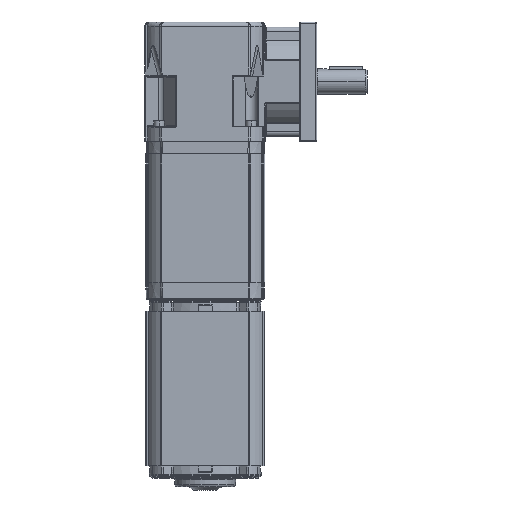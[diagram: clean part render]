
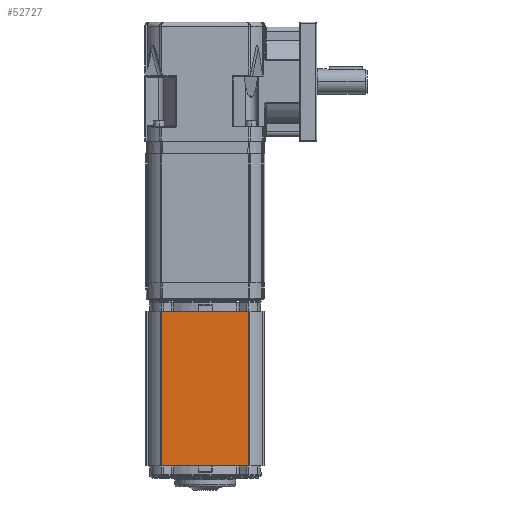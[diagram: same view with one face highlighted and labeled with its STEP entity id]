
A CAD part, front view. The second image highlights one B-rep face of the part: STEP entity #52727.
In plain terms, the highlighted planar face has unit normal (0, -1, 0).
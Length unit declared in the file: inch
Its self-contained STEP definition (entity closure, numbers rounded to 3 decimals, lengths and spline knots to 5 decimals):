
#5382 = CARTESIAN_POINT ( 'NONE',  ( 1.325, -1.7765, -4.689 ) ) ;
#5887 = DIRECTION ( 'NONE',  ( 0., 0., 1. ) ) ;
#5911 = VECTOR ( 'NONE', #40230, 39.37008 ) ;
#6220 = PLANE ( 'NONE',  #57101 ) ;
#7368 = VECTOR ( 'NONE', #5887, 39.37008 ) ;
#8058 = VECTOR ( 'NONE', #44685, 39.37008 ) ;
#11089 = VERTEX_POINT ( 'NONE', #15378 ) ;
#13605 = EDGE_CURVE ( 'NONE', #44794, #54369, #32725, .T. ) ;
#15033 = ORIENTED_EDGE ( 'NONE', *, *, #56308, .T. ) ;
#15378 = CARTESIAN_POINT ( 'NONE',  ( 1.305, -1.7765, -9.294 ) ) ;
#17565 = ORIENTED_EDGE ( 'NONE', *, *, #13605, .F. ) ;
#20914 = LINE ( 'NONE', #21094, #7368 ) ;
#21094 = CARTESIAN_POINT ( 'NONE',  ( 1.305, -1.7765, -11.025 ) ) ;
#21511 = VECTOR ( 'NONE', #57092, 39.37008 ) ;
#26838 = CARTESIAN_POINT ( 'NONE',  ( 1.325, -1.7765, -11.025 ) ) ;
#28345 = VERTEX_POINT ( 'NONE', #47374 ) ;
#28527 = CARTESIAN_POINT ( 'NONE',  ( 1.305, -1.7765, -4.689 ) ) ;
#28556 = CARTESIAN_POINT ( 'NONE',  ( -1.305, -1.7765, -11.025 ) ) ;
#31769 = DIRECTION ( 'NONE',  ( 0., 0., -1. ) ) ;
#32725 = LINE ( 'NONE', #5382, #5911 ) ;
#34661 = LINE ( 'NONE', #39943, #8058 ) ;
#35854 = ORIENTED_EDGE ( 'NONE', *, *, #54656, .T. ) ;
#38636 = EDGE_LOOP ( 'NONE', ( #48166, #35854, #17565, #15033 ) ) ;
#39943 = CARTESIAN_POINT ( 'NONE',  ( 1.305, -1.7765, -9.294 ) ) ;
#40230 = DIRECTION ( 'NONE',  ( 1., 0., 0. ) ) ;
#40880 = CARTESIAN_POINT ( 'NONE',  ( -1.305, -1.7765, -4.689 ) ) ;
#44685 = DIRECTION ( 'NONE',  ( -1., 0., 0. ) ) ;
#44794 = VERTEX_POINT ( 'NONE', #40880 ) ;
#47188 = LINE ( 'NONE', #28556, #21511 ) ;
#47374 = CARTESIAN_POINT ( 'NONE',  ( -1.305, -1.7765, -9.294 ) ) ;
#48166 = ORIENTED_EDGE ( 'NONE', *, *, #55378, .F. ) ;
#52727 = ADVANCED_FACE ( 'NONE', ( #61003 ), #6220, .T. ) ;
#54369 = VERTEX_POINT ( 'NONE', #28527 ) ;
#54656 = EDGE_CURVE ( 'NONE', #11089, #54369, #20914, .T. ) ;
#55378 = EDGE_CURVE ( 'NONE', #11089, #28345, #34661, .T. ) ;
#56308 = EDGE_CURVE ( 'NONE', #44794, #28345, #47188, .T. ) ;
#57092 = DIRECTION ( 'NONE',  ( 0., 0., -1. ) ) ;
#57101 = AXIS2_PLACEMENT_3D ( 'NONE', #26838, #60199, #31769 ) ;
#60199 = DIRECTION ( 'NONE',  ( 0., -1., 0. ) ) ;
#61003 = FACE_OUTER_BOUND ( 'NONE', #38636, .T. ) ;
